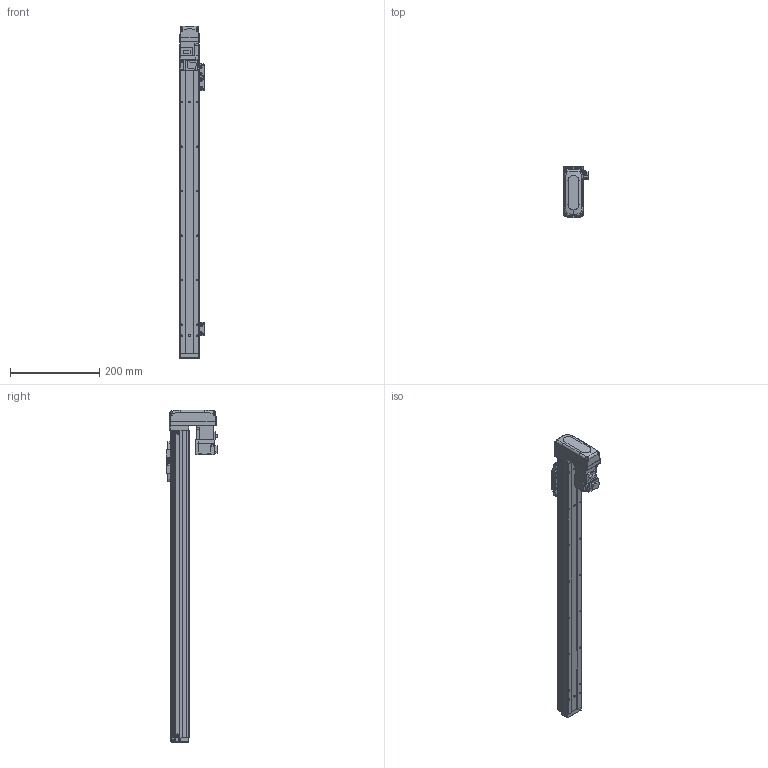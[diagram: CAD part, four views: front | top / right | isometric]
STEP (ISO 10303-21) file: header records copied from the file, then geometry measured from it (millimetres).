
FILE_DESCRIPTION (( 'STEP AP203' ), '1' );
FILE_NAME ('GTH4-550-BM-M05-C4.step', '2023-08-28T00:42:59', ( '微软用户' ), ( '微软中国' ), 'SwSTEP 2.0', 'SolidWorks 2020', '' );
FILE_SCHEMA (( 'CONFIG_CONTROL_DESIGN' ));
Length unit declared in the file: millimetre
Products named in the file (19): BTH40-003; GBT96.1-2002 3×0.8; BTH40-027-1; BTH40-006; BTH40-022; BTH50-026; BTH-M3X5X6; GBT 70.1-M2.5×6; GTH4-550-BM-M05-C4; GBT70.1-2000 M3×16; BTH40-004; BTH50-028; BTH50-023; BTH40-013; BTH50-024; HG-KR13; BTH40-001-50_BTH40-001-550; GBT 70.1-M3℅6; GBT 70.3-M3℅6
Assembly tree (47 placements, depth 2):
  GTH4-550-BM-M05-C4
    BTH40-001-50_BTH40-001-550
    BTH40-003
    BTH40-006
    BTH-M3X5X6  x8
    GBT70.1-2000 M3×16  x4
    BTH50-028  x2
    BTH50-023  x3
    BTH50-024  x3
    GBT 70.1-M3℅6  x6
    GBT96.1-2002 3×0.8  x6
    BTH40-022
    GBT 70.1-M2.5×6  x2
    BTH40-004
    BTH40-013
    HG-KR13
    GBT 70.3-M3℅6  x4
    BTH40-027-1
    BTH50-026
Bounding box: 55.2 x 115.8 x 746 mm (x, y, z)
Volume: 1351621.8 mm3; surface area: 236903 mm2
Topology: 49 solids, 49 shells, 1987 faces, 4671 edges, 2874 vertices
Faces by surface type: plane 1052, cylinder 499, cone 270, torus 128, bspline 34, sphere 4
Entity records: 39839 total; most frequent: CARTESIAN_POINT 7618, DIRECTION 6252, ORIENTED_EDGE 5988, EDGE_CURVE 2994, AXIS2_PLACEMENT_3D 2143, LINE 1966, VECTOR 1966, VERTEX_POINT 1861
